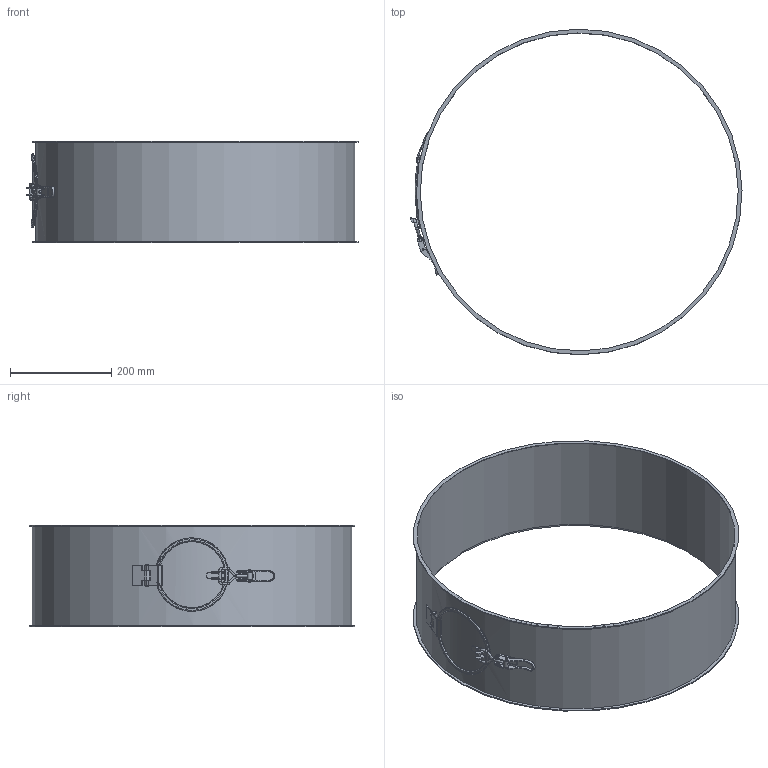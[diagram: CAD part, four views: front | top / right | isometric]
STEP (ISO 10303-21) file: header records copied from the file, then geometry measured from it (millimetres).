
FILE_DESCRIPTION((''),'2;1');
FILE_NAME('U:\Wolfgang\Marcel-3D\fertig\Kapitel 4\6311043.stp','2011-04-21T08:29:09',('TK1'),(''),'Autodesk Inventor 2010','Autodesk Inventor 2010','');
FILE_SCHEMA(('AUTOMOTIVE_DESIGN { 1 0 10303 214 1 1 1 1 }'));
Length unit declared in the file: millimetre
Products named in the file (15): 6311043 (Detailgenauigkeit1); 6311043-1; GelenkDeckel63b; GelenkDeckel1c; Deckel63; Deckel63b; GelenkDeckel35a; VerschlussDeckel63; dichtung63; Verschluss63; Verschluss1b; Verschluss1c; Verschluss1d; Verschluss1e
Assembly tree (15 placements, depth 3):
  6311043 (Detailgenauigkeit1)
    6311043-1
    GelenkDeckel63b
    GelenkDeckel1c
    Deckel63
      Deckel63b
      GelenkDeckel35a
      VerschlussDeckel63
      dichtung63
    Verschluss63
      Verschluss63
      Verschluss1b
      Verschluss1c
      Verschluss1d  x2
      Verschluss1e
Bounding box: 655.74 x 642.98 x 200 mm (x, y, z)
Volume: 683211.8 mm3; surface area: 881806.5 mm2
Topology: 13 solids, 13 shells, 177 faces, 416 edges, 269 vertices
Faces by surface type: cylinder 81, plane 80, torus 9, bspline 5, sphere 2
Full cylindrical faces by diameter (mm): 2 x4, 4 x4, 5 x6, 6 x6, 6.2 x2, 10 x1, 115 x1, 130 x1, 135 x1, 145 x1, 628 x1, 631 x1, 643 x2
Entity records: 6677 total; most frequent: CARTESIAN_POINT 2420, DIRECTION 862, ORIENTED_EDGE 710, EDGE_CURVE 355, AXIS2_PLACEMENT_3D 341, VERTEX_POINT 252, EDGE_LOOP 241, VECTOR 180
